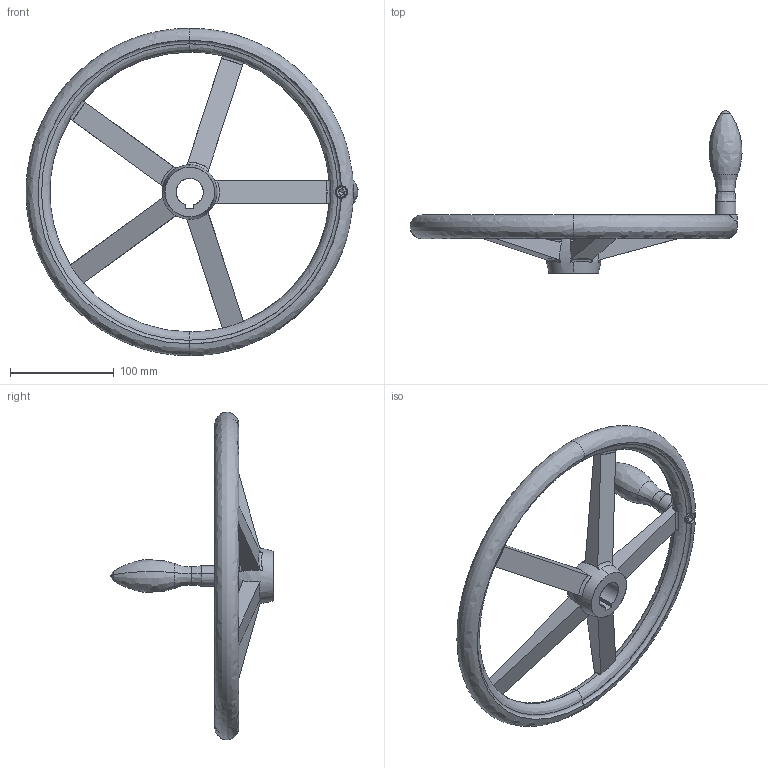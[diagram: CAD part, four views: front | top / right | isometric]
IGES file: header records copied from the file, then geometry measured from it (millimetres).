
Start section: SolidWorks IGES file using analytic representation for surfaces
Global section: file name: C:\Users\IanO\Desktop\Temp File\Process pending\77120_v2\77120_v2_20171108_IGES\77120.W0545.igs; native system: SolidWorks 2017; preprocessor: SolidWorks 2017; author: IanO; date: 171108.083939; units: millimetre
Bounding box: 319.33 x 156 x 315 mm (x, y, z)
Surface area: 122738.4 mm2 (no closed solid volume)
Topology: 0 solids, 0 shells, 137 faces, 1843 edges, 1836 vertices
Faces by surface type: bspline 76, revolution 61
